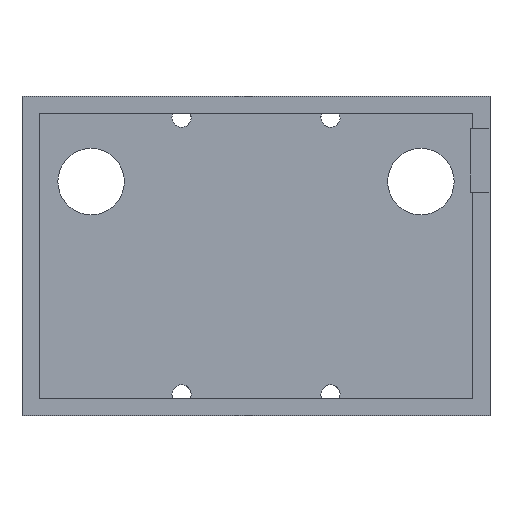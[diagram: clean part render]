
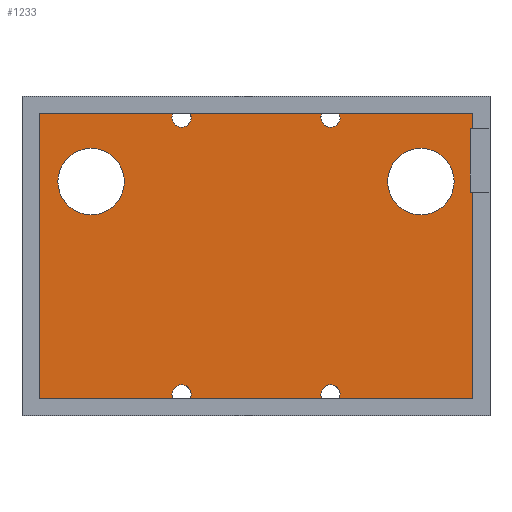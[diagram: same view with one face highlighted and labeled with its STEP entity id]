
A CAD part, top view. The second image highlights one B-rep face of the part: STEP entity #1233.
In plain terms, the highlighted planar face has unit normal (0, 0, 1).
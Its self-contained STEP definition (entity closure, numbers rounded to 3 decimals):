
#487 = EDGE_CURVE('',#488,#488,#490,.T.);
#488 = VERTEX_POINT('',#489);
#489 = CARTESIAN_POINT('',(68.75,44.,5.7));
#490 = CIRCLE('',#491,6.25);
#491 = AXIS2_PLACEMENT_3D('',#492,#493,#494);
#492 = CARTESIAN_POINT('',(75.,44.,5.7));
#493 = DIRECTION('',(0.,0.,1.));
#494 = DIRECTION('',(-1.,0.,0.));
#524 = VERTEX_POINT('',#525);
#525 = CARTESIAN_POINT('',(59.612,56.8,5.7));
#531 = EDGE_CURVE('',#532,#524,#534,.T.);
#532 = VERTEX_POINT('',#533);
#533 = CARTESIAN_POINT('',(56.2,56.,5.7));
#534 = CIRCLE('',#535,1.8);
#535 = AXIS2_PLACEMENT_3D('',#536,#537,#538);
#536 = CARTESIAN_POINT('',(58.,56.,5.7));
#537 = DIRECTION('',(0.,0.,1.));
#538 = DIRECTION('',(-1.,0.,0.));
#548 = EDGE_CURVE('',#549,#532,#551,.T.);
#549 = VERTEX_POINT('',#550);
#550 = CARTESIAN_POINT('',(56.388,56.8,5.7));
#551 = CIRCLE('',#552,1.8);
#552 = AXIS2_PLACEMENT_3D('',#553,#554,#555);
#553 = CARTESIAN_POINT('',(58.,56.,5.7));
#554 = DIRECTION('',(0.,0.,1.));
#555 = DIRECTION('',(-1.,0.,0.));
#583 = VERTEX_POINT('',#584);
#584 = CARTESIAN_POINT('',(31.612,56.8,5.7));
#590 = EDGE_CURVE('',#591,#583,#593,.T.);
#591 = VERTEX_POINT('',#592);
#592 = CARTESIAN_POINT('',(28.2,56.,5.7));
#593 = CIRCLE('',#594,1.8);
#594 = AXIS2_PLACEMENT_3D('',#595,#596,#597);
#595 = CARTESIAN_POINT('',(30.,56.,5.7));
#596 = DIRECTION('',(0.,0.,1.));
#597 = DIRECTION('',(-1.,0.,0.));
#607 = EDGE_CURVE('',#608,#591,#610,.T.);
#608 = VERTEX_POINT('',#609);
#609 = CARTESIAN_POINT('',(28.388,56.8,5.7));
#610 = CIRCLE('',#611,1.8);
#611 = AXIS2_PLACEMENT_3D('',#612,#613,#614);
#612 = CARTESIAN_POINT('',(30.,56.,5.7));
#613 = DIRECTION('',(0.,0.,1.));
#614 = DIRECTION('',(-1.,0.,0.));
#726 = EDGE_CURVE('',#727,#727,#729,.T.);
#727 = VERTEX_POINT('',#728);
#728 = CARTESIAN_POINT('',(6.75,44.,5.7));
#729 = CIRCLE('',#730,6.25);
#730 = AXIS2_PLACEMENT_3D('',#731,#732,#733);
#731 = CARTESIAN_POINT('',(13.,44.,5.7));
#732 = DIRECTION('',(0.,0.,1.));
#733 = DIRECTION('',(-1.,0.,0.));
#859 = VERTEX_POINT('',#860);
#860 = CARTESIAN_POINT('',(56.388,3.2,5.7));
#866 = EDGE_CURVE('',#867,#859,#869,.T.);
#867 = VERTEX_POINT('',#868);
#868 = CARTESIAN_POINT('',(56.2,4.,5.7));
#869 = CIRCLE('',#870,1.8);
#870 = AXIS2_PLACEMENT_3D('',#871,#872,#873);
#871 = CARTESIAN_POINT('',(58.,4.,5.7));
#872 = DIRECTION('',(0.,0.,1.));
#873 = DIRECTION('',(-1.,0.,0.));
#883 = EDGE_CURVE('',#884,#867,#886,.T.);
#884 = VERTEX_POINT('',#885);
#885 = CARTESIAN_POINT('',(59.612,3.2,5.7));
#886 = CIRCLE('',#887,1.8);
#887 = AXIS2_PLACEMENT_3D('',#888,#889,#890);
#888 = CARTESIAN_POINT('',(58.,4.,5.7));
#889 = DIRECTION('',(0.,0.,1.));
#890 = DIRECTION('',(-1.,0.,0.));
#918 = VERTEX_POINT('',#919);
#919 = CARTESIAN_POINT('',(28.388,3.2,5.7));
#925 = EDGE_CURVE('',#926,#918,#928,.T.);
#926 = VERTEX_POINT('',#927);
#927 = CARTESIAN_POINT('',(28.2,4.,5.7));
#928 = CIRCLE('',#929,1.8);
#929 = AXIS2_PLACEMENT_3D('',#930,#931,#932);
#930 = CARTESIAN_POINT('',(30.,4.,5.7));
#931 = DIRECTION('',(0.,0.,1.));
#932 = DIRECTION('',(-1.,0.,0.));
#942 = EDGE_CURVE('',#943,#926,#945,.T.);
#943 = VERTEX_POINT('',#944);
#944 = CARTESIAN_POINT('',(31.612,3.2,5.7));
#945 = CIRCLE('',#946,1.8);
#946 = AXIS2_PLACEMENT_3D('',#947,#948,#949);
#947 = CARTESIAN_POINT('',(30.,4.,5.7));
#948 = DIRECTION('',(0.,0.,1.));
#949 = DIRECTION('',(-1.,0.,0.));
#1138 = VERTEX_POINT('',#1139);
#1139 = CARTESIAN_POINT('',(84.3,42.,5.7));
#1145 = EDGE_CURVE('',#1146,#1138,#1148,.T.);
#1146 = VERTEX_POINT('',#1147);
#1147 = CARTESIAN_POINT('',(84.8,42.,5.7));
#1148 = LINE('',#1149,#1150);
#1149 = CARTESIAN_POINT('',(88.25,42.,5.7));
#1150 = VECTOR('',#1151,1.);
#1151 = DIRECTION('',(-1.,0.,0.));
#1195 = VERTEX_POINT('',#1196);
#1196 = CARTESIAN_POINT('',(84.3,54.,5.7));
#1202 = EDGE_CURVE('',#1203,#1195,#1205,.T.);
#1203 = VERTEX_POINT('',#1204);
#1204 = CARTESIAN_POINT('',(84.8,54.,5.7));
#1205 = LINE('',#1206,#1207);
#1206 = CARTESIAN_POINT('',(88.25,54.,5.7));
#1207 = VECTOR('',#1208,1.);
#1208 = DIRECTION('',(-1.,0.,0.));
#1233 = ADVANCED_FACE('',(#1234,#1314,#1317),#1320,.T.);
#1234 = FACE_BOUND('',#1235,.T.);
#1235 = EDGE_LOOP('',(#1236,#1244,#1250,#1251,#1257,#1258,#1266,#1272,
    #1273,#1274,#1280,#1281,#1282,#1290,#1298,#1304,#1305,#1306,#1312,
    #1313));
#1236 = ORIENTED_EDGE('',*,*,#1237,.F.);
#1237 = EDGE_CURVE('',#1238,#884,#1240,.T.);
#1238 = VERTEX_POINT('',#1239);
#1239 = CARTESIAN_POINT('',(84.8,3.2,5.7));
#1240 = LINE('',#1241,#1242);
#1241 = CARTESIAN_POINT('',(88.,3.2,5.7));
#1242 = VECTOR('',#1243,1.);
#1243 = DIRECTION('',(-1.,0.,0.));
#1244 = ORIENTED_EDGE('',*,*,#1245,.T.);
#1245 = EDGE_CURVE('',#1238,#1146,#1246,.T.);
#1246 = LINE('',#1247,#1248);
#1247 = CARTESIAN_POINT('',(84.8,3.2,5.7));
#1248 = VECTOR('',#1249,1.);
#1249 = DIRECTION('',(0.,1.,0.));
#1250 = ORIENTED_EDGE('',*,*,#1145,.T.);
#1251 = ORIENTED_EDGE('',*,*,#1252,.F.);
#1252 = EDGE_CURVE('',#1195,#1138,#1253,.T.);
#1253 = LINE('',#1254,#1255);
#1254 = CARTESIAN_POINT('',(84.3,21.,5.7));
#1255 = VECTOR('',#1256,1.);
#1256 = DIRECTION('',(-0.,-1.,0.));
#1257 = ORIENTED_EDGE('',*,*,#1202,.F.);
#1258 = ORIENTED_EDGE('',*,*,#1259,.T.);
#1259 = EDGE_CURVE('',#1203,#1260,#1262,.T.);
#1260 = VERTEX_POINT('',#1261);
#1261 = CARTESIAN_POINT('',(84.8,56.8,5.7));
#1262 = LINE('',#1263,#1264);
#1263 = CARTESIAN_POINT('',(84.8,3.2,5.7));
#1264 = VECTOR('',#1265,1.);
#1265 = DIRECTION('',(0.,1.,0.));
#1266 = ORIENTED_EDGE('',*,*,#1267,.T.);
#1267 = EDGE_CURVE('',#1260,#524,#1268,.T.);
#1268 = LINE('',#1269,#1270);
#1269 = CARTESIAN_POINT('',(88.,56.8,5.7));
#1270 = VECTOR('',#1271,1.);
#1271 = DIRECTION('',(-1.,0.,0.));
#1272 = ORIENTED_EDGE('',*,*,#531,.F.);
#1273 = ORIENTED_EDGE('',*,*,#548,.F.);
#1274 = ORIENTED_EDGE('',*,*,#1275,.T.);
#1275 = EDGE_CURVE('',#549,#583,#1276,.T.);
#1276 = LINE('',#1277,#1278);
#1277 = CARTESIAN_POINT('',(88.,56.8,5.7));
#1278 = VECTOR('',#1279,1.);
#1279 = DIRECTION('',(-1.,0.,0.));
#1280 = ORIENTED_EDGE('',*,*,#590,.F.);
#1281 = ORIENTED_EDGE('',*,*,#607,.F.);
#1282 = ORIENTED_EDGE('',*,*,#1283,.T.);
#1283 = EDGE_CURVE('',#608,#1284,#1286,.T.);
#1284 = VERTEX_POINT('',#1285);
#1285 = CARTESIAN_POINT('',(3.2,56.8,5.7));
#1286 = LINE('',#1287,#1288);
#1287 = CARTESIAN_POINT('',(88.,56.8,5.7));
#1288 = VECTOR('',#1289,1.);
#1289 = DIRECTION('',(-1.,0.,0.));
#1290 = ORIENTED_EDGE('',*,*,#1291,.F.);
#1291 = EDGE_CURVE('',#1292,#1284,#1294,.T.);
#1292 = VERTEX_POINT('',#1293);
#1293 = CARTESIAN_POINT('',(3.2,3.2,5.7));
#1294 = LINE('',#1295,#1296);
#1295 = CARTESIAN_POINT('',(3.2,3.2,5.7));
#1296 = VECTOR('',#1297,1.);
#1297 = DIRECTION('',(0.,1.,0.));
#1298 = ORIENTED_EDGE('',*,*,#1299,.F.);
#1299 = EDGE_CURVE('',#918,#1292,#1300,.T.);
#1300 = LINE('',#1301,#1302);
#1301 = CARTESIAN_POINT('',(88.,3.2,5.7));
#1302 = VECTOR('',#1303,1.);
#1303 = DIRECTION('',(-1.,0.,0.));
#1304 = ORIENTED_EDGE('',*,*,#925,.F.);
#1305 = ORIENTED_EDGE('',*,*,#942,.F.);
#1306 = ORIENTED_EDGE('',*,*,#1307,.F.);
#1307 = EDGE_CURVE('',#859,#943,#1308,.T.);
#1308 = LINE('',#1309,#1310);
#1309 = CARTESIAN_POINT('',(88.,3.2,5.7));
#1310 = VECTOR('',#1311,1.);
#1311 = DIRECTION('',(-1.,0.,0.));
#1312 = ORIENTED_EDGE('',*,*,#866,.F.);
#1313 = ORIENTED_EDGE('',*,*,#883,.F.);
#1314 = FACE_BOUND('',#1315,.T.);
#1315 = EDGE_LOOP('',(#1316));
#1316 = ORIENTED_EDGE('',*,*,#487,.F.);
#1317 = FACE_BOUND('',#1318,.T.);
#1318 = EDGE_LOOP('',(#1319));
#1319 = ORIENTED_EDGE('',*,*,#726,.F.);
#1320 = PLANE('',#1321);
#1321 = AXIS2_PLACEMENT_3D('',#1322,#1323,#1324);
#1322 = CARTESIAN_POINT('',(88.,0.,5.7));
#1323 = DIRECTION('',(0.,0.,1.));
#1324 = DIRECTION('',(-1.,0.,0.));
